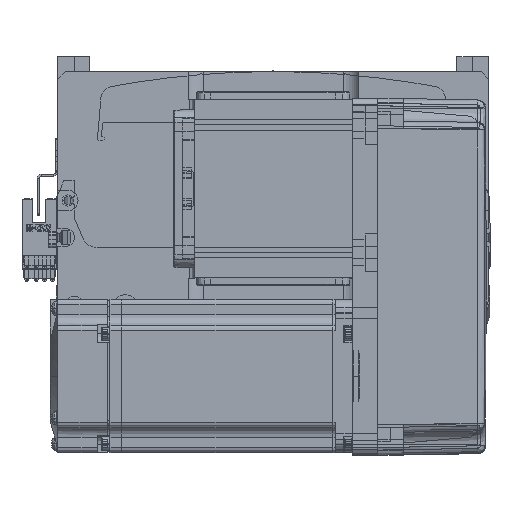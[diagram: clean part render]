
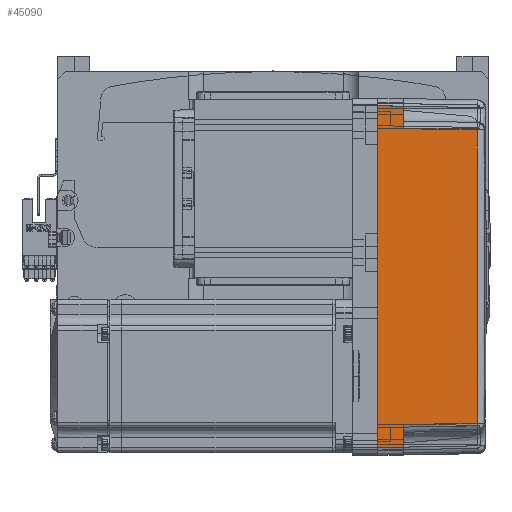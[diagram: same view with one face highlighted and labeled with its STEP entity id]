
A CAD part, top view. The second image highlights one B-rep face of the part: STEP entity #45090.
In plain terms, the highlighted planar face has unit normal (0.018, 0, 1) as drawn and (0, 1, 0.017) by its records, which use the part's own axes.
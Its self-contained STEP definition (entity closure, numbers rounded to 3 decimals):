
#258 = VERTEX_POINT ( 'NONE', #62064 ) ;
#406 = AXIS2_PLACEMENT_3D ( 'NONE', #67843, #6480, #50481 ) ;
#1318 = DIRECTION ( 'NONE',  ( 0.017, 0.017, -1. ) ) ;
#2699 = ORIENTED_EDGE ( 'NONE', *, *, #70733, .F. ) ;
#3155 = VECTOR ( 'NONE', #57266, 1000. ) ;
#3677 = VERTEX_POINT ( 'NONE', #48297 ) ;
#4312 = CARTESIAN_POINT ( 'NONE',  ( 67., 36., 0. ) ) ;
#5886 = CARTESIAN_POINT ( 'NONE',  ( -57.495, 35.32, 38.985 ) ) ;
#6480 = DIRECTION ( 'NONE',  ( 0., 1., 0.017 ) ) ;
#7542 = CARTESIAN_POINT ( 'NONE',  ( 67.001, 36.001, -0.052 ) ) ;
#7799 = LINE ( 'NONE', #27574, #28577 ) ;
#8456 = VERTEX_POINT ( 'NONE', #53144 ) ;
#9433 = DIRECTION ( 'NONE',  ( 1., 0., 0. ) ) ;
#10285 = CARTESIAN_POINT ( 'NONE',  ( -19.165, 35.316, 39.181 ) ) ;
#10961 = LINE ( 'NONE', #53884, #68008 ) ;
#12958 = VERTEX_POINT ( 'NONE', #50998 ) ;
#12999 = DIRECTION ( 'NONE',  ( 0.017, -0.017, 1. ) ) ;
#13193 = ORIENTED_EDGE ( 'NONE', *, *, #20898, .T. ) ;
#13799 = VERTEX_POINT ( 'NONE', #41426 ) ;
#14864 = VERTEX_POINT ( 'NONE', #4312 ) ;
#15885 = VERTEX_POINT ( 'NONE', #36652 ) ;
#17538 = VERTEX_POINT ( 'NONE', #44855 ) ;
#20898 = EDGE_CURVE ( 'NONE', #13799, #15885, #69634, .T. ) ;
#22386 = CARTESIAN_POINT ( 'NONE',  ( 19.165, 35.316, 39.181 ) ) ;
#22668 = LINE ( 'NONE', #7542, #45131 ) ;
#24267 = CARTESIAN_POINT ( 'NONE',  ( -67., 36., 0. ) ) ;
#25763 = VECTOR ( 'NONE', #12999, 1000. ) ;
#27290 = VECTOR ( 'NONE', #1318, 1000. ) ;
#27574 = CARTESIAN_POINT ( 'NONE',  ( 70., 35.825, 10. ) ) ;
#28577 = VECTOR ( 'NONE', #65244, 1000. ) ;
#29081 = EDGE_CURVE ( 'NONE', #258, #12958, #7799, .T. ) ;
#29843 = DIRECTION ( 'NONE',  ( 0.017, -0.017, 1. ) ) ;
#30941 = ORIENTED_EDGE ( 'NONE', *, *, #37567, .T. ) ;
#32664 = EDGE_LOOP ( 'NONE', ( #49886, #45528, #36242, #50782, #13193, #30941, #2699, #49148 ) ) ;
#34702 = LINE ( 'NONE', #24267, #41611 ) ;
#34836 = PLANE ( 'NONE',  #406 ) ;
#36242 = ORIENTED_EDGE ( 'NONE', *, *, #45290, .T. ) ;
#36652 = CARTESIAN_POINT ( 'NONE',  ( 58., 35.825, 10. ) ) ;
#37567 = EDGE_CURVE ( 'NONE', #15885, #8456, #10961, .T. ) ;
#41426 = CARTESIAN_POINT ( 'NONE',  ( 57.495, 35.32, 38.985 ) ) ;
#41611 = VECTOR ( 'NONE', #29843, 1000. ) ;
#44429 = B_SPLINE_CURVE_WITH_KNOTS ( 'NONE', 3,
 ( #5886, #10285, #22386, #65601 ),
 .UNSPECIFIED., .F., .F.,
 ( 4, 4 ),
 ( 0., 1. ),
 .UNSPECIFIED. ) ;
#44855 = CARTESIAN_POINT ( 'NONE',  ( -67., 36., 0. ) ) ;
#45090 = ADVANCED_FACE ( 'NONE', ( #69853 ), #34836, .T. ) ;
#45131 = VECTOR ( 'NONE', #68211, 1000. ) ;
#45290 = EDGE_CURVE ( 'NONE', #12958, #3677, #46516, .T. ) ;
#45528 = ORIENTED_EDGE ( 'NONE', *, *, #29081, .T. ) ;
#46516 = LINE ( 'NONE', #62564, #25763 ) ;
#48297 = CARTESIAN_POINT ( 'NONE',  ( -57.495, 35.32, 38.985 ) ) ;
#49148 = ORIENTED_EDGE ( 'NONE', *, *, #56337, .F. ) ;
#49886 = ORIENTED_EDGE ( 'NONE', *, *, #54992, .T. ) ;
#50347 = EDGE_CURVE ( 'NONE', #3677, #13799, #44429, .T. ) ;
#50481 = DIRECTION ( 'NONE',  ( 0., -0.017, 1. ) ) ;
#50782 = ORIENTED_EDGE ( 'NONE', *, *, #50347, .T. ) ;
#50998 = CARTESIAN_POINT ( 'NONE',  ( -58., 35.825, 10. ) ) ;
#51251 = CARTESIAN_POINT ( 'NONE',  ( 0., 36., 0. ) ) ;
#53144 = CARTESIAN_POINT ( 'NONE',  ( 66.826, 35.825, 10. ) ) ;
#53884 = CARTESIAN_POINT ( 'NONE',  ( 70., 35.825, 10. ) ) ;
#54992 = EDGE_CURVE ( 'NONE', #17538, #258, #34702, .T. ) ;
#56337 = EDGE_CURVE ( 'NONE', #17538, #14864, #68055, .T. ) ;
#56927 = CARTESIAN_POINT ( 'NONE',  ( 57.495, 35.32, 38.985 ) ) ;
#57266 = DIRECTION ( 'NONE',  ( 1., 0., 0. ) ) ;
#62064 = CARTESIAN_POINT ( 'NONE',  ( -66.826, 35.825, 10. ) ) ;
#62564 = CARTESIAN_POINT ( 'NONE',  ( -58., 35.825, 10. ) ) ;
#65244 = DIRECTION ( 'NONE',  ( 1., 0., 0. ) ) ;
#65601 = CARTESIAN_POINT ( 'NONE',  ( 57.495, 35.32, 38.985 ) ) ;
#67843 = CARTESIAN_POINT ( 'NONE',  ( 70., 36., 0. ) ) ;
#68008 = VECTOR ( 'NONE', #9433, 1000. ) ;
#68055 = LINE ( 'NONE', #51251, #3155 ) ;
#68211 = DIRECTION ( 'NONE',  ( -0.017, -0.017, 1. ) ) ;
#69634 = LINE ( 'NONE', #56927, #27290 ) ;
#69853 = FACE_OUTER_BOUND ( 'NONE', #32664, .T. ) ;
#70733 = EDGE_CURVE ( 'NONE', #14864, #8456, #22668, .T. ) ;
